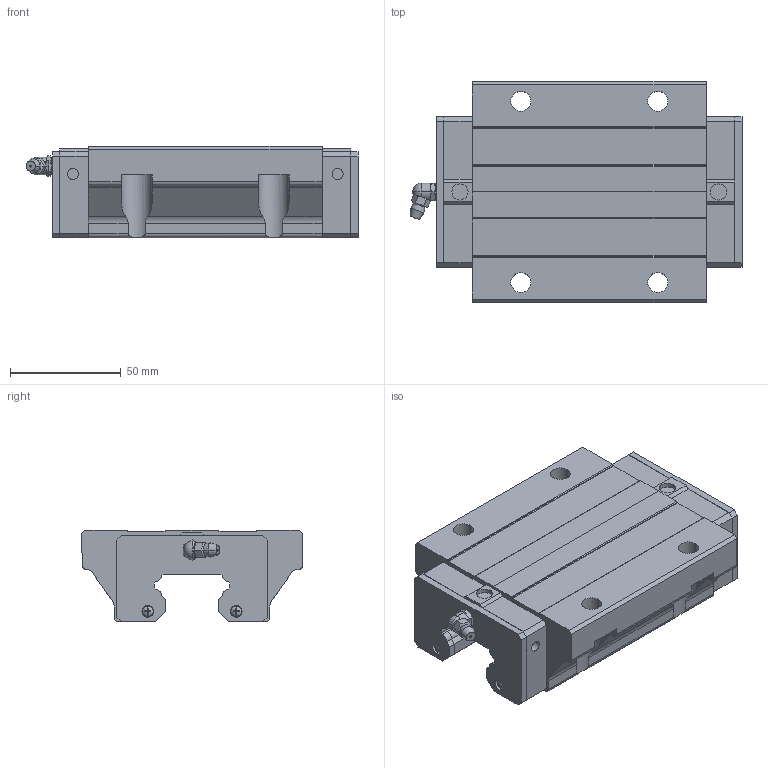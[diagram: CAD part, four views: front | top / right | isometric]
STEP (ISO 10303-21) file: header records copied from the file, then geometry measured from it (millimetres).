
FILE_DESCRIPTION(('starvars output'),'2;1');
FILE_NAME('cv20190626223017000041602.stp','22:30:17 2019/06/26',( 'Thomas Industrial Network Germany GmbH'),( 'Thomas Industrial Network Germany GmbH'),'unknown preprocess','ACIS' ,'unknown authorization');
FILE_SCHEMA(('CONFIG_CONTROL_DESIGN {UNKNOWN IMPLEMENTATION LEVEL}'));
Length unit declared in the file: millimetre
Products named in the file (10): PRODUCT_ID_1; PRODUCT_ID_2; PRODUCT_ID_3; PRODUCT_ID_4; PRODUCT_ID_5; PRODUCT_ID_6; PRODUCT_ID_7; PRODUCT_ID_8; PRODUCT_ID_9; PRODUCT_ID_10
Bounding box: 150.2 x 100 x 41.5 mm (x, y, z)
Volume: 371522.5 mm3; surface area: 67760 mm2
Topology: 10 solids, 10 shells, 399 faces, 1058 edges, 688 vertices
Faces by surface type: plane 263, cylinder 84, cone 40, sphere 12
Entity records: 12093 total; most frequent: CARTESIAN_POINT 2119, ORIENTED_EDGE 2108, DIRECTION 1637, EDGE_CURVE 1054, VERTEX_POINT 688, VECTOR 669, LINE 669, AXIS2_PLACEMENT_3D 484
